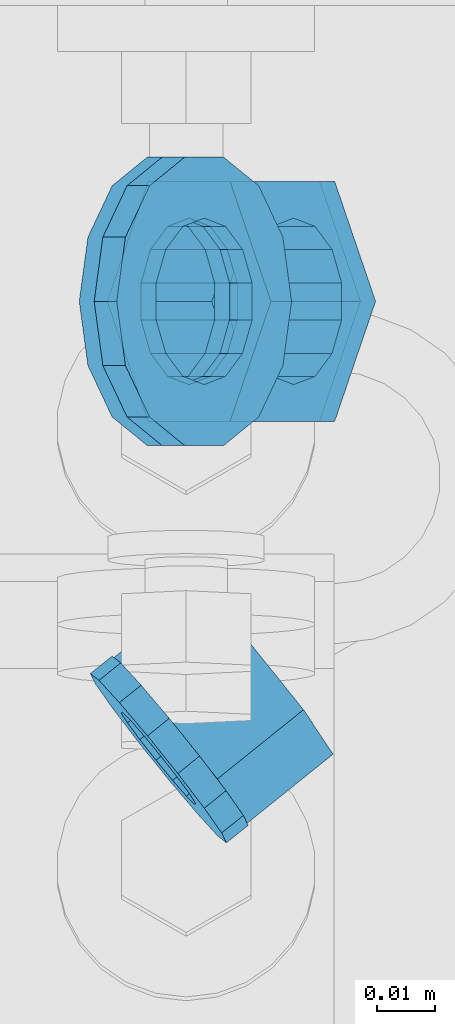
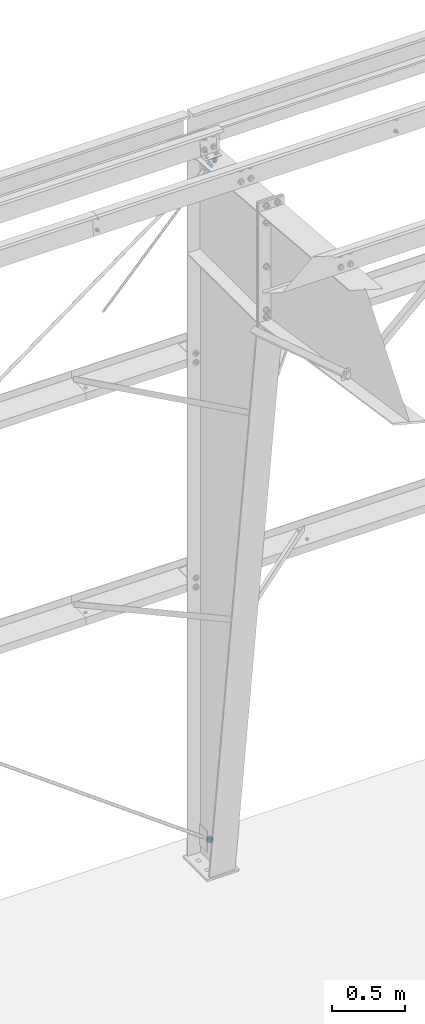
# One storey, part 48 of 185: 4 members, 2 beams, 6 elements without a shape of their own.
"""IFC2X3 building model written with IfcOpenShell, lengths in millimetres."""

from ifc_helpers import new_model, si_unit, frame, origin_with_axes, place, context, subcontext, project, spatial, polyline, outline, extrude, material, type_object, element, aggregate, save


model = new_model("IFC2X3")

# Units and contexts
model_context = context("Model", 3, precision=1e-05, world=origin_with_axes())
body_context = subcontext(model_context, "Body", "Model", "MODEL_VIEW")
ifc_project = project(units=[si_unit("LENGTHUNIT", "METRE", prefix="MILLI"), si_unit("AREAUNIT", "SQUARE_METRE"), si_unit("VOLUMEUNIT", "CUBIC_METRE"), si_unit("MASSUNIT", "GRAM", prefix="KILO"), si_unit("TIMEUNIT", "SECOND"), si_unit("PLANEANGLEUNIT", "RADIAN"), si_unit("SOLIDANGLEUNIT", "STERADIAN"), si_unit("THERMODYNAMICTEMPERATUREUNIT", "DEGREE_CELSIUS"), si_unit("LUMINOUSINTENSITYUNIT", "LUMEN")], contexts=[model_context])

# Site, building, storey
site_placement = place(None, origin_with_axes())
site = spatial("IfcSite", under=ifc_project, at=site_placement, Name="Undefined", CompositionType="ELEMENT")
building_placement = place(site_placement, origin_with_axes())
building = spatial("IfcBuilding", under=site, at=building_placement, Name="Undefined", CompositionType="ELEMENT")
storey_placement = place(building_placement, origin_with_axes())
storey = spatial("IfcBuildingStorey", under=building, at=storey_placement, Name="Undefined", CompositionType="ELEMENT", Elevation=0.0)

# Assembly, member
assembly_1_placement = place(storey_placement, origin_with_axes())
assembly_1 = element("IfcElementAssembly", 1, at=assembly_1_placement, inside=storey, Name="Steel Assembly", AssemblyPlace="NOTDEFINED", PredefinedType="RIGID_FRAME")
ifc_material = material(Name="STEEL/55")
member_type_1 = type_object("IfcMemberType", Name="1_HEAVY_HEX_NUT", PredefinedType="NOTDEFINED")
member_1_placement = place(assembly_1_placement, frame((37757.6197651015, 31742.1260000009, 140.133583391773), z_axis=(8.1869000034e-05, 0.999999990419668, 0.00011161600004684), x_axis=(0.806747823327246, 0.0, -0.590895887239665)))
member_1 = element("IfcMember", 2, at=member_1_placement, type_object=member_type_1, material=ifc_material, Name="1 H HEX NUT A563", ObjectType="1_HEAVY_HEX_NUT", context=body_context, shape_type="SweptSolid", body=[
    extrude(outline(polyline([(-11.909999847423, 20.620000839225), (11.9099998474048, 20.6200008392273), (23.8099994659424, -4.9453774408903e-12), (11.9099998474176, -20.6200008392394), (-11.9099998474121, -20.6200008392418), (-23.8099994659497, -9.49285094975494e-12), (-11.909999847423, 20.620000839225)]), holes=[polyline([(11.1723718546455, -8.90966924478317), (13.9317198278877, -3.17982413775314), (13.9317198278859, 3.17982413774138), (11.17237185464, 8.9096692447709), (6.20019861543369, 12.8748450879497), (-5.45696821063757e-12, 14.2899999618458), (-6.20019861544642, 12.8748450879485), (-11.1723718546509, 8.90966924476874), (-13.931719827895, 3.17982413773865), (-13.9317198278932, -3.17982413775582), (-11.1723718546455, -8.90966924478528), (-6.20019861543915, -12.8748450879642), (0.0, -14.2899999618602), (6.20019861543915, -12.874845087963), (11.1723718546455, -8.90966924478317)])]), frame((19.0500000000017, 0.0, 2.58175642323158e-19), z_axis=(-1.0, 0.0, 0.0), x_axis=(0.0, -1.0, 0.0)), (0.0, 0.0, 1.0), 19.1),
])
aggregate(assembly_1, [member_1])

assembly_2_placement = place(storey_placement, origin_with_axes())
assembly_2 = element("IfcElementAssembly", 3, at=assembly_2_placement, inside=storey, Name="Steel Assembly", AssemblyPlace="NOTDEFINED", PredefinedType="RIGID_FRAME")
member_2_placement = place(assembly_2_placement, frame((37760.1811885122, 31742.1259999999, 5779.49958722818), z_axis=(8.17930000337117e-05, -0.999999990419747, -0.000111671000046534), x_axis=(0.806747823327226, 0.0, 0.590895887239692)))
member_2 = element("IfcMember", 4, at=member_2_placement, type_object=member_type_1, material=ifc_material, Name="1 H HEX NUT A563", ObjectType="1_HEAVY_HEX_NUT", context=body_context, shape_type="SweptSolid", body=[
    extrude(outline(polyline([(-11.909999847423, 20.620000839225), (11.9099998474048, 20.6200008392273), (23.8099994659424, -4.9453774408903e-12), (11.9099998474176, -20.6200008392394), (-11.9099998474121, -20.6200008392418), (-23.8099994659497, -9.49285094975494e-12), (-11.909999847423, 20.620000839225)]), holes=[polyline([(11.1723718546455, -8.90966924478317), (13.9317198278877, -3.17982413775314), (13.9317198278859, 3.17982413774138), (11.17237185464, 8.9096692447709), (6.20019861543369, 12.8748450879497), (-5.45696821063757e-12, 14.2899999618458), (-6.20019861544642, 12.8748450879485), (-11.1723718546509, 8.90966924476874), (-13.931719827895, 3.17982413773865), (-13.9317198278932, -3.17982413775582), (-11.1723718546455, -8.90966924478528), (-6.20019861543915, -12.8748450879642), (0.0, -14.2899999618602), (6.20019861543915, -12.874845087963), (11.1723718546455, -8.90966924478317)])]), frame((19.0500000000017, 0.0, 2.58175642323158e-19), z_axis=(-1.0, 0.0, 0.0), x_axis=(0.0, -1.0, 0.0)), (0.0, 0.0, 1.0), 19.1),
])
aggregate(assembly_2, [member_2])

assembly_3_placement = place(storey_placement, origin_with_axes())
assembly_3 = element("IfcElementAssembly", 5, at=assembly_3_placement, inside=storey, Name="Steel Assembly", AssemblyPlace="NOTDEFINED", PredefinedType="RIGID_FRAME")
member_type_2 = type_object("IfcMemberType", Name="1_WASHER", PredefinedType="NOTDEFINED")
member_3_placement = place(assembly_3_placement, frame((37753.7776285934, 31742.1260000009, 142.947725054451), z_axis=(8.1869000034e-05, 0.999999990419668, 0.00011161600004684), x_axis=(0.806747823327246, 0.0, -0.590895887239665)))
member_3 = element("IfcMember", 6, at=member_3_placement, type_object=member_type_2, material=ifc_material, Name="1 WASHER F844", ObjectType="1_WASHER", context=body_context, shape_type="SweptSolid", body=[
    extrude(outline(polyline([(15.8366407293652, 19.8585193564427), (22.8846089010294, 11.020646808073), (25.3999996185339, 6.25277607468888e-13), (22.8846089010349, -11.0206468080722), (15.8366407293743, -19.8585193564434), (5.6520316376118, -24.7631685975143), (-5.65203163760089, -24.7631685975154), (-15.8366407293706, -19.8585193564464), (-22.8846089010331, -11.0206468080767), (-25.3999996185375, -4.32009983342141e-12), (-22.8846089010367, 11.0206468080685), (-15.8366407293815, 19.8585193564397), (-5.65203163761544, 24.7631685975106), (5.65203163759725, 24.7631685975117), (15.8366407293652, 19.8585193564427)]), holes=[polyline([(11.1723718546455, -8.90966924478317), (13.9317198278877, -3.17982413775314), (13.9317198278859, 3.17982413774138), (11.17237185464, 8.9096692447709), (6.20019861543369, 12.8748450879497), (-5.45696821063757e-12, 14.2899999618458), (-6.20019861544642, 12.8748450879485), (-11.1723718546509, 8.90966924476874), (-13.931719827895, 3.17982413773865), (-13.9317198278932, -3.17982413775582), (-11.1723718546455, -8.90966924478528), (-6.20019861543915, -12.8748450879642), (0.0, -14.2899999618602), (6.20019861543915, -12.874845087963), (11.1723718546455, -8.90966924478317)])]), frame((4.76250000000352, 2.6437185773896e-16, 5.6843418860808e-14), z_axis=(-1.0, 0.0, 0.0), x_axis=(0.0, -1.0, 0.0)), (0.0, 0.0, 1.0), 4.8),
])
aggregate(assembly_3, [member_3])

assembly_4_placement = place(storey_placement, origin_with_axes())
assembly_4 = element("IfcElementAssembly", 7, at=assembly_4_placement, inside=storey, Name="Steel Assembly", AssemblyPlace="NOTDEFINED", PredefinedType="RIGID_FRAME")
member_4_placement = place(assembly_4_placement, frame((37756.3390520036, 31742.1259999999, 5776.68544556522), z_axis=(8.17930000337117e-05, -0.999999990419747, -0.000111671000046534), x_axis=(0.806747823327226, 0.0, 0.590895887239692)))
member_4 = element("IfcMember", 8, at=member_4_placement, type_object=member_type_2, material=ifc_material, Name="1 WASHER F844", ObjectType="1_WASHER", context=body_context, shape_type="SweptSolid", body=[
    extrude(outline(polyline([(15.8366407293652, 19.8585193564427), (22.8846089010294, 11.020646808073), (25.3999996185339, 6.25277607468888e-13), (22.8846089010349, -11.0206468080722), (15.8366407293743, -19.8585193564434), (5.6520316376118, -24.7631685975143), (-5.65203163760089, -24.7631685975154), (-15.8366407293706, -19.8585193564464), (-22.8846089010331, -11.0206468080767), (-25.3999996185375, -4.32009983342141e-12), (-22.8846089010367, 11.0206468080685), (-15.8366407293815, 19.8585193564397), (-5.65203163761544, 24.7631685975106), (5.65203163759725, 24.7631685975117), (15.8366407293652, 19.8585193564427)]), holes=[polyline([(11.1723718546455, -8.90966924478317), (13.9317198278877, -3.17982413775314), (13.9317198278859, 3.17982413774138), (11.17237185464, 8.9096692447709), (6.20019861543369, 12.8748450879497), (-5.45696821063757e-12, 14.2899999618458), (-6.20019861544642, 12.8748450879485), (-11.1723718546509, 8.90966924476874), (-13.931719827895, 3.17982413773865), (-13.9317198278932, -3.17982413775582), (-11.1723718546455, -8.90966924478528), (-6.20019861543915, -12.8748450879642), (0.0, -14.2899999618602), (6.20019861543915, -12.874845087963), (11.1723718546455, -8.90966924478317)])]), frame((4.76250000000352, 2.6437185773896e-16, 5.6843418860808e-14), z_axis=(-1.0, 0.0, 0.0), x_axis=(0.0, -1.0, 0.0)), (0.0, 0.0, 1.0), 4.8),
])
aggregate(assembly_4, [member_4])

# Assembly, beam
assembly_5_placement = place(storey_placement, origin_with_axes())
assembly_5 = element("IfcElementAssembly", 9, at=assembly_5_placement, inside=storey, Name="Steel Assembly", AssemblyPlace="NOTDEFINED", PredefinedType="RIGID_FRAME")
beam_type_1 = type_object("IfcBeamType", Name="3/4_HEAVY_HEX_NUT", PredefinedType="NOTDEFINED")
beam_1_placement = place(assembly_5_placement, frame((37756.0641884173, 31666.689151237, 5861.25106492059), z_axis=(0.0403015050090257, 0.0330993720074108, 0.998639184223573), x_axis=(0.778250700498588, 0.625784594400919, -0.0521487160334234)))
beam_1 = element("IfcBeam", 10, at=beam_1_placement, type_object=beam_type_1, material=ifc_material, Name="3/4 H HEX NUT A563", ObjectType="3/4_HEAVY_HEX_NUT", context=body_context, shape_type="SweptSolid", body=[
    extrude(outline(polyline([(9.13000011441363, -15.810000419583), (-9.13000011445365, -15.810000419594), (-18.2600002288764, 1.54614099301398e-11), (-9.13000011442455, 15.8100004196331), (9.13000011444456, 15.8100004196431), (18.2600002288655, 3.36513039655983e-11), (9.13000011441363, -15.810000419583)]), holes=[polyline([(-8.06850066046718, 6.43441456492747), (-10.061255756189, 2.29641597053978), (-10.0612557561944, -2.29641597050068), (-8.06850066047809, -6.43441456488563), (-4.47768005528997, -9.29799844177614), (-1.09139364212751e-11, -10.3199996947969), (4.47768005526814, -9.29799844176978), (8.0685006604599, -6.43441456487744), (10.0612557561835, -2.29641597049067), (10.0612557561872, 2.2964159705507), (8.06850066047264, 6.43441456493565), (4.47768005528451, 9.29799844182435), (7.27595761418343e-12, 10.319999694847), (-4.47768005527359, 9.2979984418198), (-8.06850066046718, 6.43441456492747)])]), frame((19.0500000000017, 0.0, 2.58175642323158e-19), z_axis=(-1.0, 0.0, 0.0), x_axis=(0.0, -1.0, 0.0)), (0.0, 0.0, 1.0), 19.0),
])
aggregate(assembly_5, [beam_1])

assembly_6_placement = place(storey_placement, origin_with_axes())
assembly_6 = element("IfcElementAssembly", 11, at=assembly_6_placement, inside=storey, Name="Steel Assembly", AssemblyPlace="NOTDEFINED", PredefinedType="RIGID_FRAME")
beam_type_2 = type_object("IfcBeamType", Name="3/4_WASHER", PredefinedType="NOTDEFINED")
beam_2_placement = place(assembly_6_placement, frame((37752.3577694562, 31663.7088521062, 5861.49942318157), z_axis=(0.0403015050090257, 0.0330993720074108, 0.998639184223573), x_axis=(0.778250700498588, 0.625784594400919, -0.0521487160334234)))
beam_2 = element("IfcBeam", 12, at=beam_2_placement, type_object=beam_type_2, material=ifc_material, Name="3/4 WASHER F844", ObjectType="3/4_WASHER", context=body_context, shape_type="SweptSolid", body=[
    extrude(outline(polyline([(-11.6280845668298, -14.5811568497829), (-16.8030690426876, -8.09193156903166), (-18.649999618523, -4.54747350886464e-12), (-16.8030690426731, 8.09193156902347), (-11.6280845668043, 14.5811568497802), (-4.15001533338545, 18.1824051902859), (4.15001533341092, 18.1824051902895), (11.628084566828, 14.5811568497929), (16.8030690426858, 8.09193156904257), (18.6499996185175, 1.45519152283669e-11), (16.8030690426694, -8.09193156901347), (11.6280845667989, -14.5811568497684), (4.15001533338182, -18.182405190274), (-4.15001533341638, -18.1824051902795), (-11.6280845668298, -14.5811568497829)]), holes=[polyline([(-8.06850066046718, 6.43441456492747), (-10.061255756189, 2.29641597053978), (-10.0612557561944, -2.29641597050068), (-8.06850066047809, -6.43441456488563), (-4.47768005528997, -9.29799844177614), (-1.09139364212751e-11, -10.3199996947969), (4.47768005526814, -9.29799844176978), (8.0685006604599, -6.43441456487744), (10.0612557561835, -2.29641597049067), (10.0612557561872, 2.2964159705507), (8.06850066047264, 6.43441456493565), (4.47768005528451, 9.29799844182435), (7.27595761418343e-12, 10.319999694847), (-4.47768005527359, 9.2979984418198), (-8.06850066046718, 6.43441456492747)])]), frame((4.76250000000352, 2.6437185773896e-16, 5.6843418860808e-14), z_axis=(-1.0, 0.0, 0.0), x_axis=(0.0, -1.0, 0.0)), (0.0, 0.0, 1.0), 4.8),
])
aggregate(assembly_6, [beam_2])

save(model, "model.ifc")
